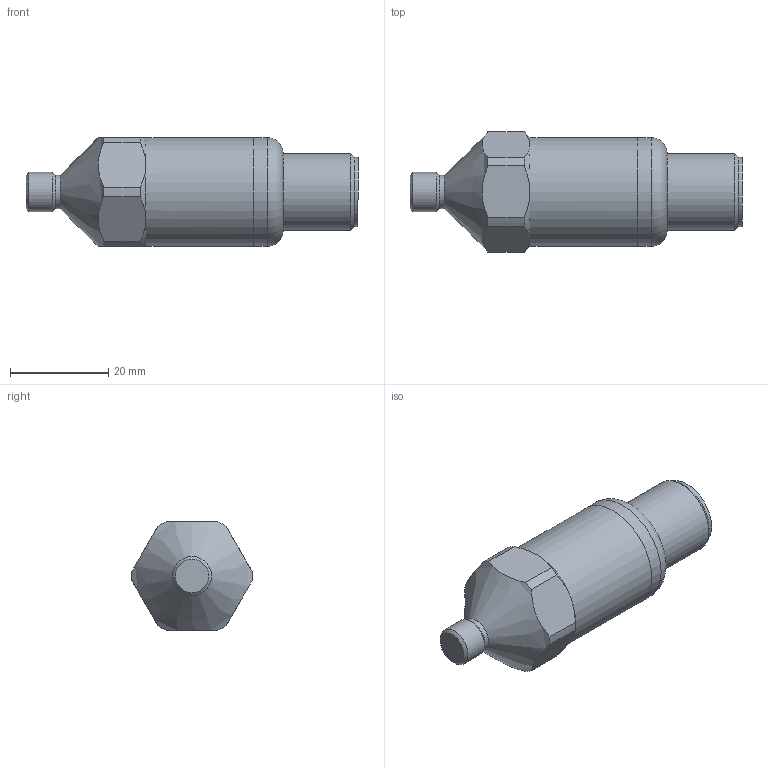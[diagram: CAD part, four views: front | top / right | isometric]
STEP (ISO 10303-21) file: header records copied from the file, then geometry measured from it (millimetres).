
FILE_DESCRIPTION(/* description */ (''),/* implementation_level */ '2;1');
FILE_NAME(/* name */ 'Z:\Engineering\Drawings\3D Library\Assemblies\Website\Premium Top\HS-150 Top 2 Pin MS Conical\HS-150XXX5019.stp',/* time_stamp */ '2023-03-12T12:15:52+00:00',/* author */ ('Ricardo.Peneda'),/* organization */ (''),/* preprocessor_version */ 'ST-DEVELOPER v18.1',/* originating_system */ 'Autodesk Inventor 2021',/* authorisation */ '');
FILE_SCHEMA (('AUTOMOTIVE_DESIGN { 1 0 10303 214 3 1 1 }'));
Length unit declared in the file: inch
Products named in the file (1): HS-150XXX5019_Shrinkwrap_1
Bounding box: 67.74 x 24.59 x 22.2 mm (x, y, z)
Volume: 13381 mm3; surface area: 7019 mm2
Topology: 2 solids, 2 shells, 42 faces, 119 edges, 85 vertices
Faces by surface type: cylinder 16, plane 14, cone 11, torus 1
Full cylindrical faces by diameter (mm): 6.8 x1, 8 x1, 11.37 x1, 14.28 x1, 15.055 x1, 15.7 x1, 19 x1, 20 x1, 22.2 x2
Entity records: 1497 total; most frequent: CARTESIAN_POINT 321, ORIENTED_EDGE 238, DIRECTION 235, EDGE_CURVE 119, AXIS2_PLACEMENT_3D 104, VERTEX_POINT 85, CIRCLE 61, EDGE_LOOP 46
